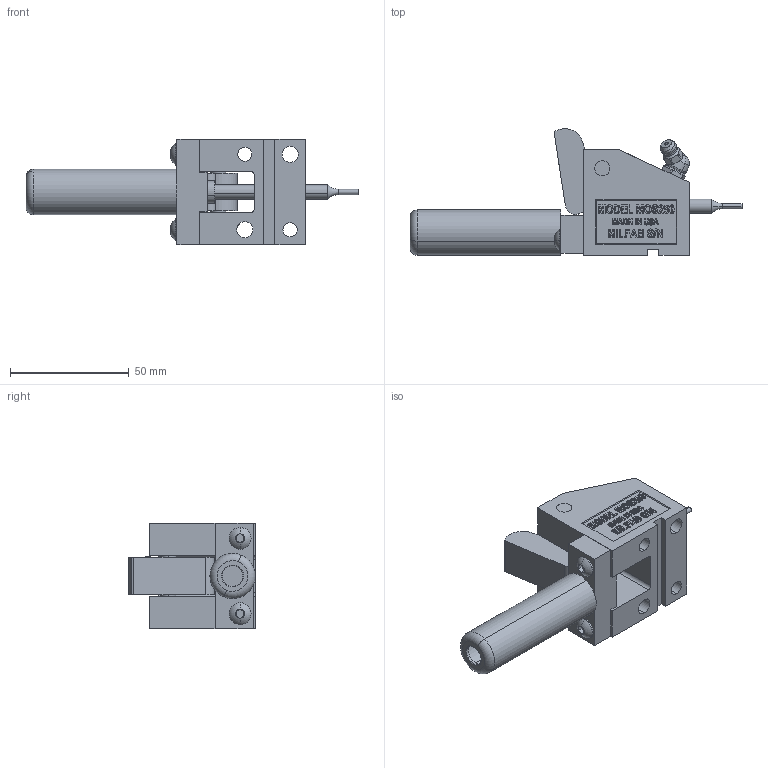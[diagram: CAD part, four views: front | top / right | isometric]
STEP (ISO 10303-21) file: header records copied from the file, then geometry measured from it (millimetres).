
FILE_DESCRIPTION (( 'STEP AP214' ), '1' );
FILE_NAME ('MOS250-O.STEP', '2014-01-06T20:18:45', ( 'user' ), ( '' ), 'SwSTEP 2.0', 'SolidWorks 2009', '' );
FILE_SCHEMA (( 'AUTOMOTIVE_DESIGN' ));
Length unit declared in the file: inch
Products named in the file (10): 250-TRIGGER; GREASE ZERK; OS250-CAGE; 10-SCREW; MOS250-O; M-O-250-POINT; MOS250-PUNCH; MOS250-BODY; 250 PIVOT PIN; 250-O-STRAP
Assembly tree (10 placements, depth 2):
  MOS250-O
    GREASE ZERK
    250-TRIGGER
    250-O-STRAP
    M-O-250-POINT
    MOS250-BODY
    MOS250-PUNCH
    10-SCREW  x2
    OS250-CAGE
    250 PIVOT PIN
Bounding box: 139.7 x 53.22 x 44.45 mm (x, y, z)
Volume: 74338.9 mm3; surface area: 34125.8 mm2
Topology: 10 solids, 10 shells, 595 faces, 1542 edges, 1015 vertices
Faces by surface type: plane 345, bspline 110, cylinder 90, torus 26, cone 24
Entity records: 24408 total; most frequent: CARTESIAN_POINT 10608, ORIENTED_EDGE 3004, DIRECTION 2346, EDGE_CURVE 1502, VERTEX_POINT 991, VECTOR 978, LINE 978, AXIS2_PLACEMENT_3D 684
